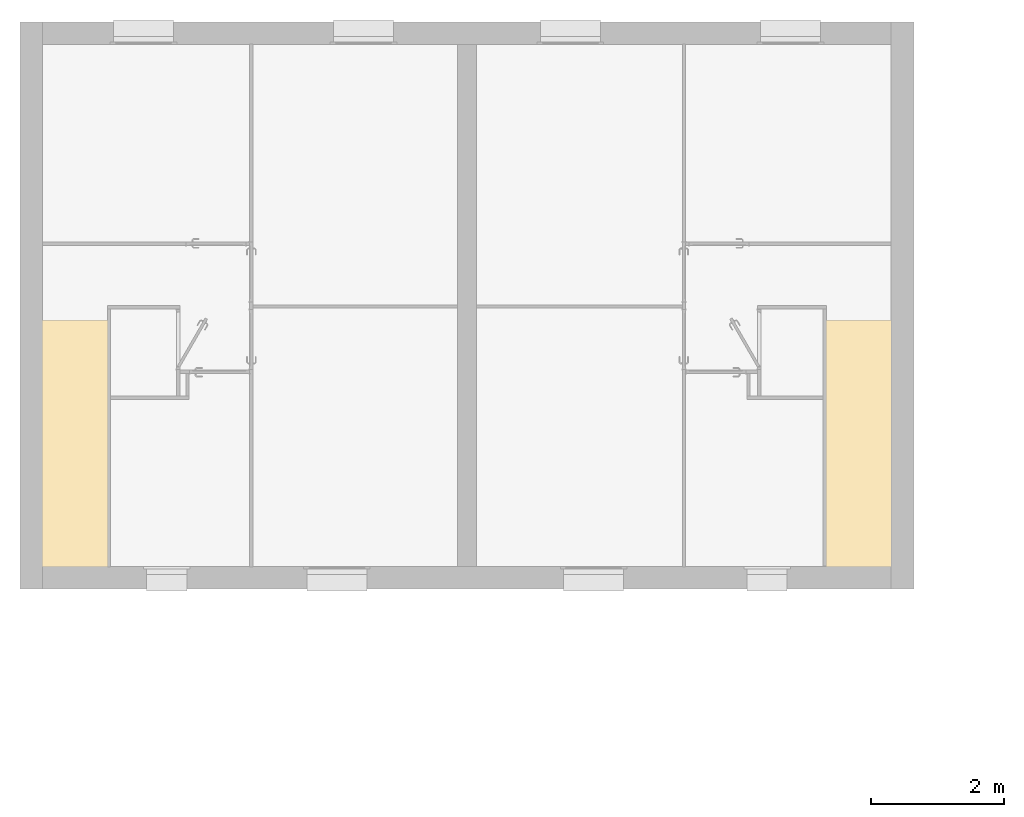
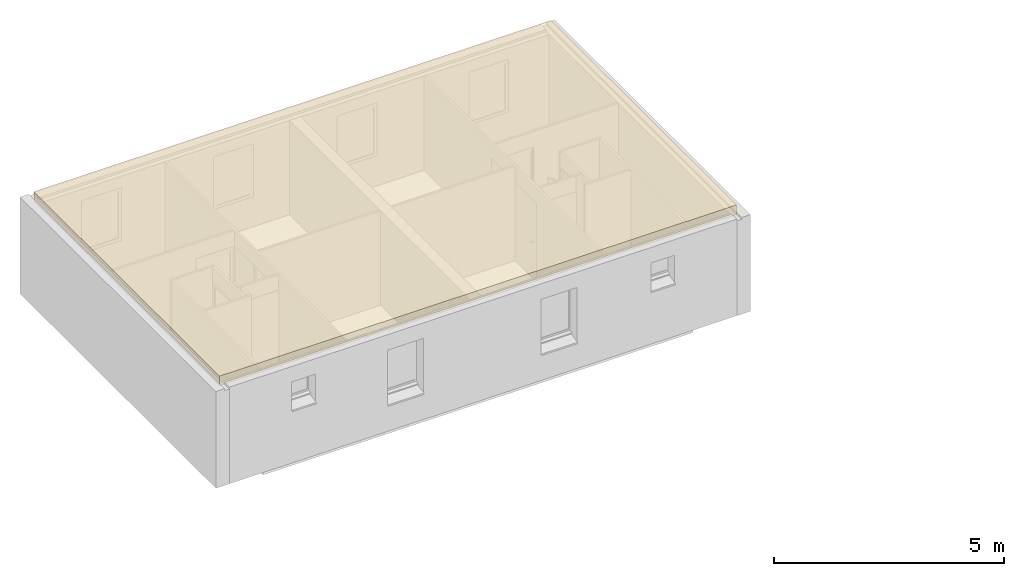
# One storey, part 13 of 13: 1 covering.
"""IFC2X3 building model written with IfcOpenShell, lengths in metres."""

from ifc_helpers import new_model, entity, si_unit, converted_unit, derived_unit, direction, frame, frame_2d, origin, place, context, subcontext, project, spatial, rectangle, extrude, material, layer, layer_set, layer_usage, element, save


model = new_model("IFC2X3")

# Units and contexts
model_context = context("Model", 3, precision=1e-05, world=origin(), true_north=direction((6.12303176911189e-17, 1.0)))
context_of_model = context(None, 3, precision=1e-05, world=origin(), true_north=direction((6.12303176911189e-17, 1.0)))
body_context = subcontext(model_context, "Body", "Model", "MODEL_VIEW")
ifc_project = project(units=[si_unit("LENGTHUNIT", "METRE"), si_unit("AREAUNIT", "SQUARE_METRE"), si_unit("VOLUMEUNIT", "CUBIC_METRE"), converted_unit("PLANEANGLEUNIT", "DEGREE", entity("IfcRatioMeasure", 0.0174532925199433), si_unit("PLANEANGLEUNIT", "RADIAN"), dimensions=[0, 0, 0, 0, 0, 0, 0]), si_unit("MASSUNIT", "GRAM", prefix="KILO"), si_unit("TIMEUNIT", "SECOND"), si_unit("FREQUENCYUNIT", "HERTZ"), si_unit("THERMODYNAMICTEMPERATUREUNIT", "DEGREE_CELSIUS"), derived_unit("THERMALTRANSMITTANCEUNIT", [(si_unit("MASSUNIT", "GRAM", prefix="KILO"), 1), (si_unit("THERMODYNAMICTEMPERATUREUNIT", "KELVIN"), -1), (si_unit("TIMEUNIT", "SECOND"), -3)]), derived_unit("VOLUMETRICFLOWRATEUNIT", [(si_unit("LENGTHUNIT", "METRE"), 3), (si_unit("TIMEUNIT", "SECOND"), -1)]), si_unit("ELECTRICCURRENTUNIT", "AMPERE"), si_unit("ELECTRICVOLTAGEUNIT", "VOLT"), si_unit("POWERUNIT", "WATT"), si_unit("FORCEUNIT", "NEWTON", prefix="KILO"), si_unit("ILLUMINANCEUNIT", "LUX"), si_unit("LUMINOUSFLUXUNIT", "LUMEN"), si_unit("LUMINOUSINTENSITYUNIT", "CANDELA"), derived_unit("USERDEFINED", [(si_unit("MASSUNIT", "GRAM", prefix="KILO"), -1), (si_unit("LENGTHUNIT", "METRE"), -2), (si_unit("TIMEUNIT", "SECOND"), 3), (si_unit("LUMINOUSFLUXUNIT", "LUMEN"), 1)]), derived_unit("LINEARVELOCITYUNIT", [(si_unit("LENGTHUNIT", "METRE"), 1), (si_unit("TIMEUNIT", "SECOND"), -1)]), si_unit("PRESSUREUNIT", "PASCAL"), derived_unit("USERDEFINED", [(si_unit("LENGTHUNIT", "METRE"), -2), (si_unit("MASSUNIT", "GRAM", prefix="KILO"), 1), (si_unit("TIMEUNIT", "SECOND"), -2)])], contexts=[model_context, context_of_model])

# Site, building, storey
site_placement = place(None, origin())
site = spatial("IfcSite", under=ifc_project, at=site_placement, Name="Surface", CompositionType="ELEMENT")
building_placement = place(site_placement, origin())
building = spatial("IfcBuilding", under=site, at=building_placement, CompositionType="ELEMENT")
storey_placement = place(building_placement, frame((0.0, 0.0, 2.74)))
storey = spatial("IfcBuildingStorey", under=building, at=storey_placement, Name="Plan étage", CompositionType="ELEMENT", Elevation=2.74)

# Covering
ifc_material_1 = material(Name="Maçonnerie - Isolant")
ifc_layer_1 = layer(ifc_material_1, 0.25)
ifc_material_2 = material(Name="Faux-plafond - Trame 600 x 600")
ifc_layer_2 = layer(ifc_material_2, 0.01)
ifc_layer_set = layer_set([ifc_layer_1, ifc_layer_2], Name="Plafond composé:Plafond avec isolation")
ifc_layer_usage = layer_usage(ifc_layer_set, "AXIS3", "NEGATIVE", 0.0)
covering_placement = place(storey_placement, origin())
element("IfcCovering", 1, at=covering_placement, inside=storey, material=ifc_layer_usage, Name="Plafond composé:Plafond avec isolation", ObjectType="Plafond composé:Plafond avec isolation", PredefinedType="CEILING", context=body_context, shape_type="SweptSolid", body=[
    extrude(rectangle(XDim=12.96, YDim=8.06000000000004, at=frame_2d((-1.33226762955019e-15, 0.0), x_axis=(1.0, 0.0))), frame((-4.93608881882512, 1.4342557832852, 2.5), z_axis=(0.0, 0.0, 1.0), x_axis=(-1.0, 0.0, 0.0)), (0.0, 0.0, 1.0), 0.26),
])

save(model, "model.ifc")
